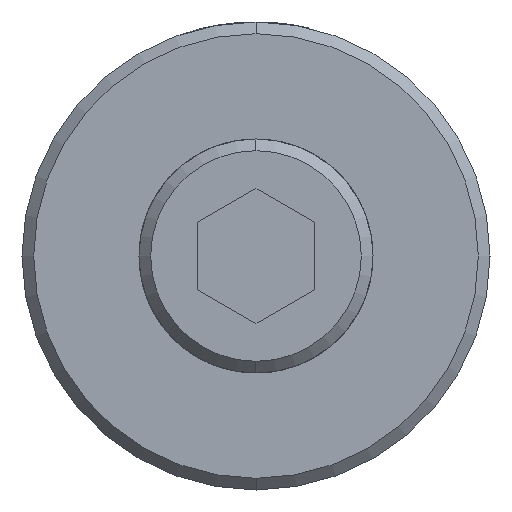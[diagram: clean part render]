
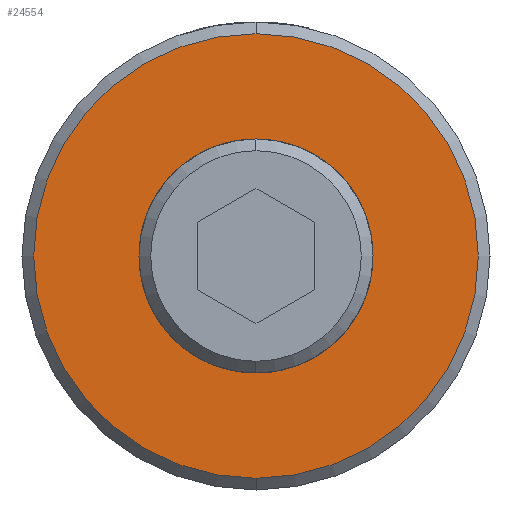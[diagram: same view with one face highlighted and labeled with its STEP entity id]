
A CAD part, left-side view. The second image highlights one B-rep face of the part: STEP entity #24554.
In plain terms, the highlighted planar face has unit normal (-1, 0, 0) as drawn and (0, 0, 1) by its records, which use the part's own axes.
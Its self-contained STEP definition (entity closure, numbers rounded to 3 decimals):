
#19713=CARTESIAN_POINT('',(0.,0.,0.));
#19714=DIRECTION('',(0.,0.,-1.));
#19715=DIRECTION('',(-1.,0.,0.));
#19716=AXIS2_PLACEMENT_3D('',#19713,#19714,#19715);
#19718=CARTESIAN_POINT('',(0.,0.,0.));
#19719=DIRECTION('',(0.,0.,-1.));
#19720=DIRECTION('',(1.,0.,0.));
#19721=AXIS2_PLACEMENT_3D('',#19718,#19719,#19720);
#19723=CARTESIAN_POINT('',(-0.998,-2.562,0.));
#19724=CARTESIAN_POINT('',(-1.332,-2.451,0.));
#19725=CARTESIAN_POINT('',(-1.91,-2.126,0.));
#19726=CARTESIAN_POINT('',(-2.57,-1.358,0.));
#19727=CARTESIAN_POINT('',(-2.906,-0.45,0.));
#19728=CARTESIAN_POINT('',(-2.943,0.39,0.));
#19729=CARTESIAN_POINT('',(-2.778,1.125,0.));
#19730=CARTESIAN_POINT('',(-2.574,1.538,0.));
#19731=CARTESIAN_POINT('',(-2.451,1.73,0.));
#19733=CARTESIAN_POINT('',(0.,0.,0.));
#19734=DIRECTION('',(0.,0.,-1.));
#19735=DIRECTION('',(0.882,-0.472,0.));
#19736=AXIS2_PLACEMENT_3D('',#19733,#19734,#19735);
#19738=CARTESIAN_POINT('',(0.737,2.908,0.));
#19739=CARTESIAN_POINT('',(0.915,2.854,0.));
#19740=CARTESIAN_POINT('',(1.254,2.716,0.));
#19741=CARTESIAN_POINT('',(1.722,2.415,0.));
#19742=CARTESIAN_POINT('',(2.13,2.027,0.));
#19743=CARTESIAN_POINT('',(2.463,1.56,0.));
#19744=CARTESIAN_POINT('',(2.707,1.008,0.));
#19745=CARTESIAN_POINT('',(2.832,0.397,0.));
#19746=CARTESIAN_POINT('',(2.82,-0.213,0.));
#19747=CARTESIAN_POINT('',(2.688,-0.78,0.));
#19748=CARTESIAN_POINT('',(2.525,-1.13,0.));
#19749=CARTESIAN_POINT('',(2.425,-1.297,0.));
#19751=CARTESIAN_POINT('',(-2.451,1.73,0.));
#19752=CARTESIAN_POINT('',(-2.275,1.979,0.));
#19753=CARTESIAN_POINT('',(-1.867,2.405,0.));
#19754=CARTESIAN_POINT('',(-1.051,2.861,0.));
#19755=CARTESIAN_POINT('',(-0.153,3.04,0.));
#19756=CARTESIAN_POINT('',(0.439,2.984,0.));
#19757=CARTESIAN_POINT('',(0.737,2.908,0.));
#24225=CARTESIAN_POINT('',(-5.7,0.,0.));
#24226=CARTESIAN_POINT('',(5.7,0.,0.));
#24227=VERTEX_POINT('',#24225);
#24228=VERTEX_POINT('',#24226);
#24265=VERTEX_POINT('',#19723);
#24266=VERTEX_POINT('',#19731);
#24267=VERTEX_POINT('',#19757);
#24268=VERTEX_POINT('',#19749);
#24533=CARTESIAN_POINT('',(0.,0.,0.));
#24534=DIRECTION('',(0.,0.,1.));
#24535=DIRECTION('',(-1.,0.,0.));
#24536=AXIS2_PLACEMENT_3D('',#24533,#24534,#24535);
#24537=PLANE('',#24536);
#24539=ORIENTED_EDGE('',*,*,#24538,.T.);
#24541=ORIENTED_EDGE('',*,*,#24540,.T.);
#24542=EDGE_LOOP('',(#24539,#24541));
#24543=FACE_OUTER_BOUND('',#24542,.F.);
#24545=ORIENTED_EDGE('',*,*,#24544,.F.);
#24547=ORIENTED_EDGE('',*,*,#24546,.F.);
#24549=ORIENTED_EDGE('',*,*,#24548,.F.);
#24551=ORIENTED_EDGE('',*,*,#24550,.F.);
#24552=EDGE_LOOP('',(#24545,#24547,#24549,#24551));
#24553=FACE_BOUND('',#24552,.F.);
#24554=ADVANCED_FACE('',(#24543,#24553),#24537,.T.);
#19717=CIRCLE('',#19716,5.7);
#19722=CIRCLE('',#19721,5.7);
#19732=B_SPLINE_CURVE_WITH_KNOTS('',3,(#19723,#19724,#19725,#19726,#19727,
#19728,#19729,#19730,#19731),.UNSPECIFIED.,.F.,.F.,(4,1,1,1,1,1,4),(0.,
0.167,0.333,0.5,0.667,0.833,
1.),.UNSPECIFIED.);
#19737=CIRCLE('',#19736,2.75);
#19750=B_SPLINE_CURVE_WITH_KNOTS('',3,(#19738,#19739,#19740,#19741,#19742,
#19743,#19744,#19745,#19746,#19747,#19748,#19749),.UNSPECIFIED.,.F.,.F.,(4,1,1,
1,1,1,1,1,1,4),(0.,0.111,0.222,0.333,
0.444,0.556,0.667,0.778,
0.889,1.),.UNSPECIFIED.);
#19758=B_SPLINE_CURVE_WITH_KNOTS('',3,(#19751,#19752,#19753,#19754,#19755,
#19756,#19757),.UNSPECIFIED.,.F.,.F.,(4,1,1,1,4),(0.,0.25,0.5,0.75,
1.),.UNSPECIFIED.);
#24538=EDGE_CURVE('',#24227,#24228,#19717,.T.);
#24540=EDGE_CURVE('',#24228,#24227,#19722,.T.);
#24544=EDGE_CURVE('',#24265,#24266,#19732,.T.);
#24546=EDGE_CURVE('',#24268,#24265,#19737,.T.);
#24548=EDGE_CURVE('',#24267,#24268,#19750,.T.);
#24550=EDGE_CURVE('',#24266,#24267,#19758,.T.);
